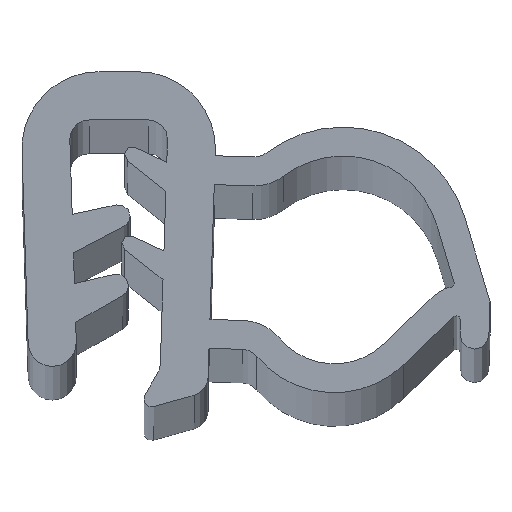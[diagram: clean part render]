
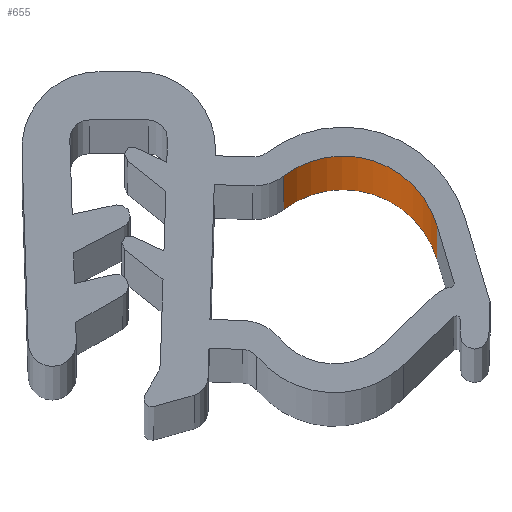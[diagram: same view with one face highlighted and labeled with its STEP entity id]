
A CAD part, top view. The second image highlights one B-rep face of the part: STEP entity #655.
In plain terms, the highlighted cylindrical face has radius 5.1 mm (diameter 10.2 mm), a partial arc.
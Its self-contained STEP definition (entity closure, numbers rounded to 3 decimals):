
#273 = CARTESIAN_POINT ( 'NONE',  ( 8.564, -2.916, 0. ) ) ;
#282 = CARTESIAN_POINT ( 'NONE',  ( 8.564, -2.916, -1000. ) ) ;
#298 = CARTESIAN_POINT ( 'NONE',  ( 16.534, -5.51, -1000. ) ) ;
#302 = CARTESIAN_POINT ( 'NONE',  ( 16.534, -5.51, 0. ) ) ;
#423 = EDGE_CURVE ( 'NONE', #1157, #1189, #850, .T. ) ;
#428 = EDGE_CURVE ( 'NONE', #1155, #1186, #856, .T. ) ;
#438 = EDGE_CURVE ( 'NONE', #1189, #1186, #872, .T. ) ;
#439 = EDGE_CURVE ( 'NONE', #1157, #1155, #874, .T. ) ;
#655 = ADVANCED_FACE ( 'NONE', ( #930 ), #937, .F. ) ;
#850 = CIRCLE ( 'NONE', #2046, 5.1 ) ;
#856 = CIRCLE ( 'NONE', #2049, 5.1 ) ;
#872 = LINE ( 'NONE', #1792, #875 ) ;
#874 = LINE ( 'NONE', #1790, #877 ) ;
#875 = VECTOR ( 'NONE', #1791, 1000. ) ;
#877 = VECTOR ( 'NONE', #1789, 1000. ) ;
#930 = FACE_OUTER_BOUND ( 'NONE', #2104, .T. ) ;
#937 = CYLINDRICAL_SURFACE ( 'NONE', #2070, 5.1 ) ;
#1111 = CARTESIAN_POINT ( 'NONE',  ( 11.65, -6.977, -1000. ) ) ;
#1114 = DIRECTION ( 'NONE',  ( 1., 0., 0. ) ) ;
#1117 = DIRECTION ( 'NONE',  ( 0., 0., 1. ) ) ;
#1155 = VERTEX_POINT ( 'NONE', #302 ) ;
#1157 = VERTEX_POINT ( 'NONE', #298 ) ;
#1186 = VERTEX_POINT ( 'NONE', #273 ) ;
#1189 = VERTEX_POINT ( 'NONE', #282 ) ;
#1463 = ORIENTED_EDGE ( 'NONE', *, *, #439, .T. ) ;
#1464 = ORIENTED_EDGE ( 'NONE', *, *, #423, .F. ) ;
#1465 = ORIENTED_EDGE ( 'NONE', *, *, #438, .F. ) ;
#1466 = ORIENTED_EDGE ( 'NONE', *, *, #428, .T. ) ;
#1789 = DIRECTION ( 'NONE',  ( 0., 0., 1. ) ) ;
#1790 = CARTESIAN_POINT ( 'NONE',  ( 16.534, -5.51, -1000. ) ) ;
#1791 = DIRECTION ( 'NONE',  ( 0., 0., 1. ) ) ;
#1792 = CARTESIAN_POINT ( 'NONE',  ( 8.564, -2.916, -1000. ) ) ;
#1827 = DIRECTION ( 'NONE',  ( 1., 0., 0. ) ) ;
#1829 = DIRECTION ( 'NONE',  ( 0., 0., 1. ) ) ;
#1830 = CARTESIAN_POINT ( 'NONE',  ( 11.65, -6.977, 0. ) ) ;
#1841 = DIRECTION ( 'NONE',  ( 1., 0., 0. ) ) ;
#1843 = DIRECTION ( 'NONE',  ( 0., 0., 1. ) ) ;
#1844 = CARTESIAN_POINT ( 'NONE',  ( 11.65, -6.977, -1000. ) ) ;
#2046 = AXIS2_PLACEMENT_3D ( 'NONE', #1844, #1843, #1841 ) ;
#2049 = AXIS2_PLACEMENT_3D ( 'NONE', #1830, #1829, #1827 ) ;
#2070 = AXIS2_PLACEMENT_3D ( 'NONE', #1111, #1117, #1114 ) ;
#2104 = EDGE_LOOP ( 'NONE', ( #1466, #1465, #1464, #1463 ) ) ;
